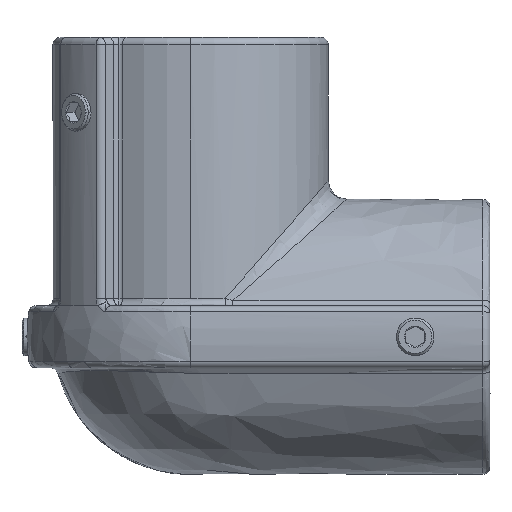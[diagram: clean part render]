
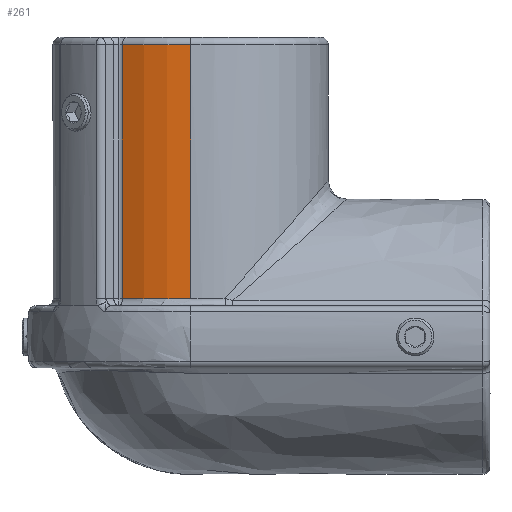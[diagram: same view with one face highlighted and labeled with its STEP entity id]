
A CAD part, left-side view. The second image highlights one B-rep face of the part: STEP entity #261.
In plain terms, the highlighted cylindrical face has radius 35.052 mm (diameter 70.104 mm), a partial arc.
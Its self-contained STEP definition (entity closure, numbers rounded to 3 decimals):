
#100=CYLINDRICAL_SURFACE('',#2251,35.052);
#261=ADVANCED_FACE('',(#397),#100,.T.);
#397=FACE_OUTER_BOUND('',#541,.F.);
#541=EDGE_LOOP('',(#1092,#1093,#1094,#1095));
#1092=ORIENTED_EDGE('',*,*,#1464,.F.);
#1093=ORIENTED_EDGE('',*,*,#1439,.F.);
#1094=ORIENTED_EDGE('',*,*,#1465,.F.);
#1095=ORIENTED_EDGE('',*,*,#1466,.F.);
#1331=CIRCLE('',#2071,35.052);
#1340=CIRCLE('',#2080,35.052);
#1439=EDGE_CURVE('',#2029,#2034,#1331,.T.);
#1464=EDGE_CURVE('',#2034,#2007,#1726,.T.);
#1465=EDGE_CURVE('',#2006,#2029,#1727,.T.);
#1466=EDGE_CURVE('',#2007,#2006,#1340,.T.);
#1726=LINE('',#5454,#1813);
#1727=LINE('',#5455,#1814);
#1813=VECTOR('',#2329,64.637);
#1814=VECTOR('',#2330,64.637);
#2006=VERTEX_POINT('',#2893);
#2007=VERTEX_POINT('',#2894);
#2029=VERTEX_POINT('',#2916);
#2034=VERTEX_POINT('',#2921);
#2071=AXIS2_PLACEMENT_3D('',#3013,#2307,#2308);
#2080=AXIS2_PLACEMENT_3D('',#5456,#2331,#2332);
#2251=AXIS2_PLACEMENT_3D('',#40568,#2742,#2743);
#2307=DIRECTION('',(0.,0.,-1.));
#2308=DIRECTION('',(-1.,0.,0.));
#2329=DIRECTION('',(0.,0.,-1.));
#2330=DIRECTION('',(0.,0.,1.));
#2331=DIRECTION('',(0.,0.,1.));
#2332=DIRECTION('',(-0.869,0.495,0.));
#2742=DIRECTION('',(0.,0.,1.));
#2743=DIRECTION('',(-0.822,0.569,0.));
#2893=CARTESIAN_POINT('',(-35.052,0.,9.735));
#2894=CARTESIAN_POINT('',(-30.449,17.365,9.735));
#2916=CARTESIAN_POINT('',(-35.052,0.,74.371));
#2921=CARTESIAN_POINT('',(-30.449,17.365,74.371));
#3013=CARTESIAN_POINT('',(0.,0.,74.371));
#5454=CARTESIAN_POINT('',(-30.449,17.365,74.371));
#5455=CARTESIAN_POINT('',(-35.052,0.,9.735));
#5456=CARTESIAN_POINT('',(0.,0.,9.735));
#40568=CARTESIAN_POINT('',(0.,0.,77.603));
